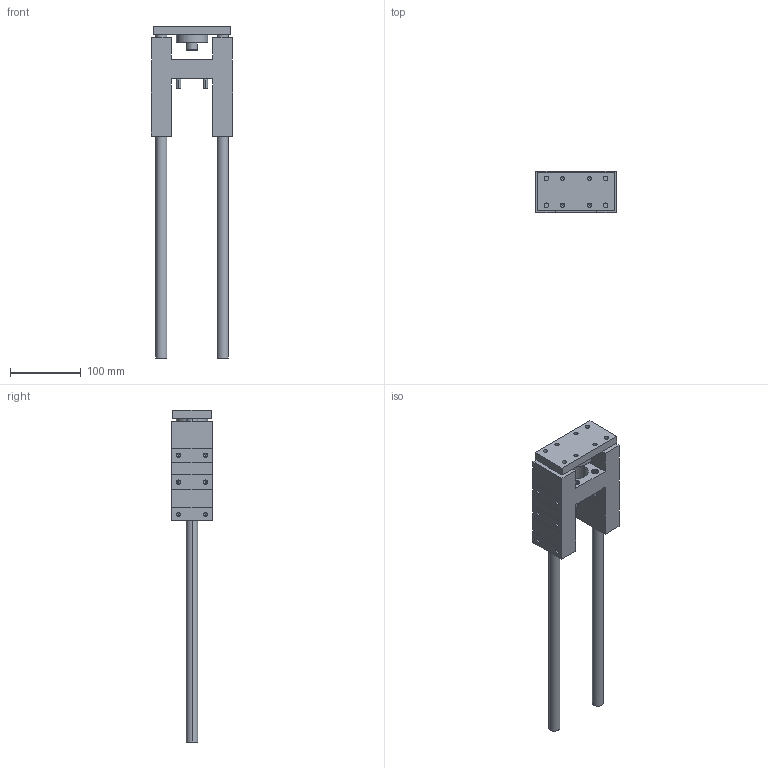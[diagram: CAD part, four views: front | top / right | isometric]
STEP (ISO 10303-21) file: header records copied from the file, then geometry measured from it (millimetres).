
FILE_DESCRIPTION (( 'STEP AP203' ), '1' );
FILE_NAME ('GB40-300.STEP', '2020-04-24T11:22:19', ( '' ), ( '' ), 'SwSTEP 2.0', 'SolidWorks 2019', '' );
FILE_SCHEMA (( 'CONFIG_CONTROL_DESIGN' ));
Length unit declared in the file: millimetre
Products named in the file (1): GB40-300
Bounding box: 115 x 58 x 470 mm (x, y, z)
Volume: 732247.2 mm3; surface area: 152632.2 mm2
Topology: 6 solids, 6 shells, 357 faces, 802 edges, 456 vertices
Faces by surface type: cone 142, plane 113, cylinder 102
Entity records: 10283 total; most frequent: CARTESIAN_POINT 2222, DIRECTION 1796, ORIENTED_EDGE 1532, EDGE_CURVE 766, AXIS2_PLACEMENT_3D 700, VERTEX_POINT 456, EDGE_LOOP 422, VECTOR 396
